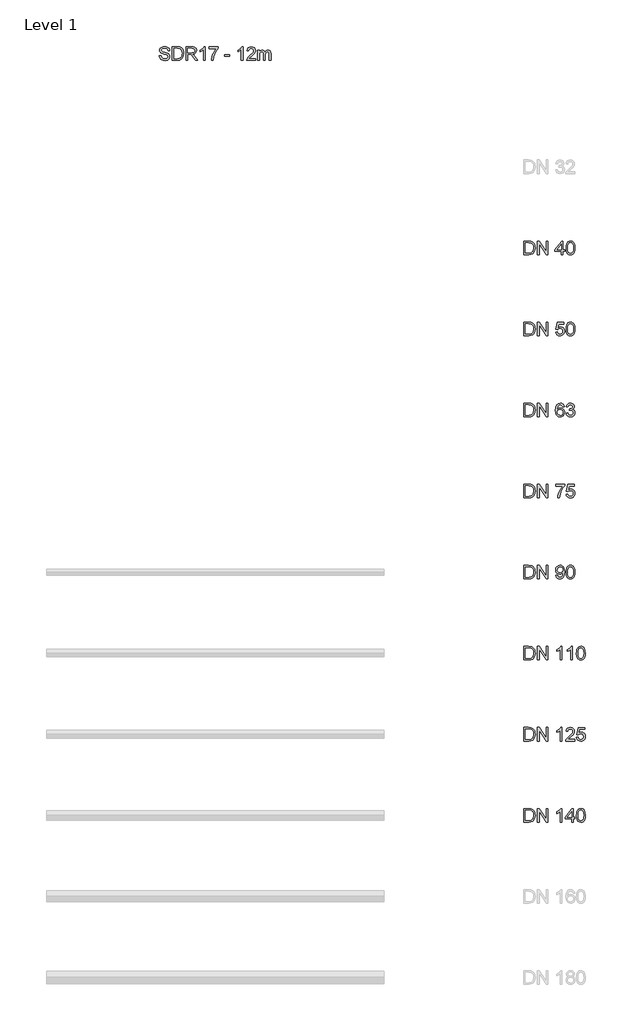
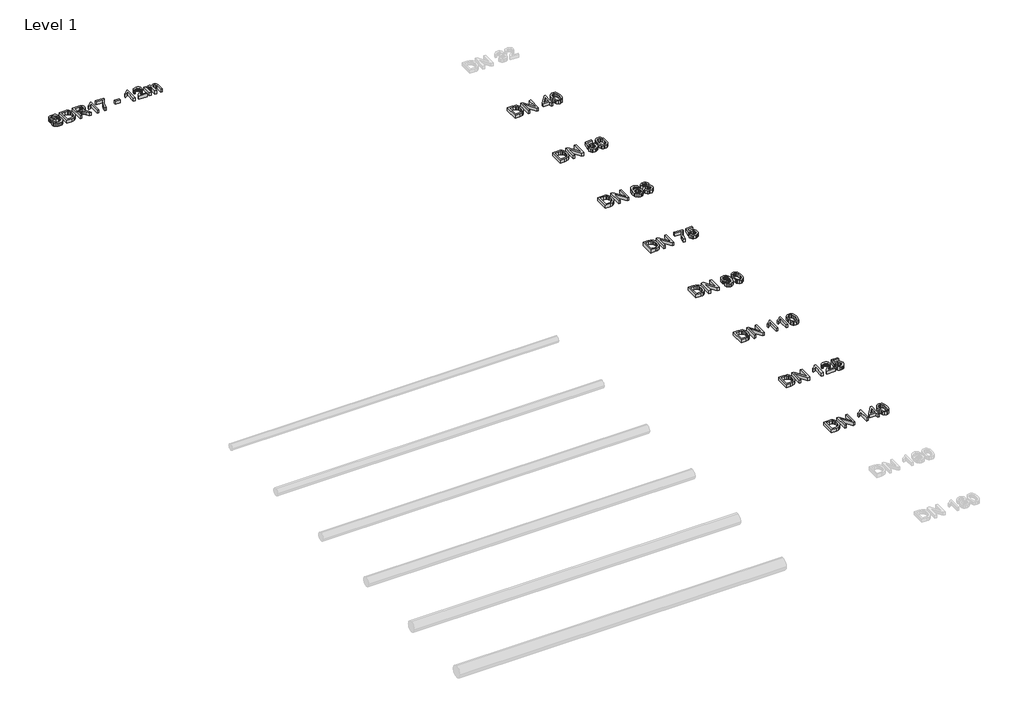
# One storey, part 21 of 26: 9 proxies.
"""IFC4 building model written with IfcOpenShell, lengths in millimetres."""

from ifc_helpers import new_model, si_unit, origin, origin_with_axes, place, context, project, spatial, polyline, outline, extrude, element, save

model = new_model("IFC4")

# Units and contexts
model_context = context("Model", 3, world=origin())
ifc_project = project(units=[si_unit("LENGTHUNIT", "METRE", prefix="MILLI")], contexts=[model_context])

# Site, building, storey
site = spatial("IfcSite", under=ifc_project)
building = spatial("IfcBuilding", under=site)
storey = spatial("IfcBuildingStorey", under=building, Name="Level 1", Elevation=0.0)

# Proxies
placement = place(None, origin())
element("IfcBuildingElementProxy", 1, Name="200mm Arial", ObjectType="200mm Arial", at=placement, inside=storey, context=model_context, shape_type="SweptSolid", body=[
    extrude(outline(polyline([(25539.3076926, -39613.949573), (25539.3076926, -39413.0369527), (25608.6166605, -39413.0369527), (25644.4728923, -39415.9309577), (25660.4880218, -39421.5105013), (25674.0015538, -39430.302881), (25687.8952305, -39445.606772), (25697.7912562, -39464.6385338), (25703.7141563, -39487.0302846), (25705.6884563, -39512.4141423), (25700.3419047, -39552.9547382), (25686.6076435, -39582.2136195), (25668.2625947, -39600.436041), (25644.2521631, -39610.5160077), (25611.9521239, -39613.949573), (25539.3076926, -39613.949573)]), holes=[polyline([(25564.4217702, -39588.8354954), (25608.8619152, -39588.8354954), (25641.1864798, -39585.2057264), (25659.8258342, -39574.9540815), (25668.5507689, -39564.0831685), (25675.1051998, -39550.0116822), (25679.207084, -39532.6783089), (25680.5743788, -39512.0217348), (25677.8949716, -39484.6513144), (25669.85675, -39464.4423301), (25657.9802929, -39450.5609162), (25643.7861793, -39442.1732067), (25608.1752021, -39438.1510302), (25564.4217702, -39438.1510302), (25564.4217702, -39588.8354954)])]), origin_with_axes(), (0.0, 0.0, 1.0), 50.0),
    extrude(outline(polyline([(25740.2203129, -39613.949573), (25740.2203129, -39413.0369527), (25767.100224, -39413.0369527), (25872.06922, -39572.2072292), (25872.06922, -39413.0369527), (25897.1832975, -39413.0369527), (25897.1832975, -39613.949573), (25870.3033864, -39613.949573), (25765.3343905, -39454.7302454), (25765.3343905, -39613.949573), (25740.2203129, -39613.949573)])), origin_with_axes(), (0.0, 0.0, 1.0), 50.0),
    extrude(outline(polyline([(26091.8173985, -39613.949573), (26091.8173985, -39566.8606776), (26000.7788674, -39566.8606776), (26000.7788674, -39541.7466), (26098.0959178, -39416.1762123), (26116.931476, -39416.1762123), (26116.931476, -39541.7466), (26142.0455535, -39541.7466), (26142.0455535, -39566.8606776), (26116.931476, -39566.8606776), (26116.931476, -39613.949573), (26091.8173985, -39613.949573)]), holes=[polyline([(26091.8173985, -39541.7466), (26091.8173985, -39464.1480245), (26031.680955, -39541.7466), (26091.8173985, -39541.7466)])]), origin_with_axes(), (0.0, 0.0, 1.0), 50.0),
    extrude(outline(polyline([(26164.0203714, -39515.1119436), (26165.8659127, -39482.9529258), (26171.4025367, -39457.3054194), (26180.5750612, -39437.7770168), (26193.3283037, -39423.9753106), (26209.7542347, -39415.7715422), (26229.9448249, -39413.0369527), (26245.4203942, -39414.6556334), (26259.2772827, -39419.5116758), (26270.8655655, -39427.4150073), (26279.5353179, -39438.1755557), (26291.3075417, -39467.9004209), (26295.8692784, -39515.1119436), (26294.0421312, -39547.0870203), (26288.5606895, -39572.6732131), (26279.4433474, -39592.2200098), (26266.708499, -39606.0768983), (26250.2457797, -39614.335849), (26229.9448249, -39617.0888326), (26203.8497287, -39612.3063667), (26184.0331519, -39597.9589689), (26175.2775604, -39582.8298218), (26169.0235665, -39563.9789353), (26164.0203714, -39515.1119436)]), holes=[polyline([(26189.1344489, -39515.0628927), (26192.0775049, -39554.5672876), (26200.9066728, -39577.4311536), (26214.0523227, -39588.3388547), (26229.9448249, -39591.9747551), (26245.8373271, -39588.326592), (26258.9829771, -39577.3821026), (26267.8121449, -39554.5059739), (26270.7552009, -39515.0628927), (26267.9102468, -39476.4475459), (26259.3753845, -39453.4058703), (26246.25426, -39441.9647402), (26229.6505193, -39438.1510302), (26213.9296954, -39441.5110191), (26201.2990802, -39451.5909857), (26192.1756067, -39476.0674012), (26189.1344489, -39515.0628927)])]), origin_with_axes(), (0.0, 0.0, 1.0), 50.0),
])
element("IfcBuildingElementProxy", 2, Name="200mm Arial", ObjectType="200mm Arial", at=placement, inside=storey, context=model_context, shape_type="SweptSolid", body=[
    extrude(outline(polyline([(25539.3076926, -40813.949573), (25539.3076926, -40613.0369527), (25608.6166605, -40613.0369527), (25644.4728923, -40615.9309577), (25660.4880218, -40621.5105013), (25674.0015538, -40630.302881), (25687.8952305, -40645.606772), (25697.7912562, -40664.6385338), (25703.7141563, -40687.0302846), (25705.6884563, -40712.4141423), (25700.3419047, -40752.9547382), (25686.6076435, -40782.2136195), (25668.2625947, -40800.436041), (25644.2521631, -40810.5160077), (25611.9521239, -40813.949573), (25539.3076926, -40813.949573)]), holes=[polyline([(25564.4217702, -40788.8354954), (25608.8619152, -40788.8354954), (25641.1864798, -40785.2057264), (25659.8258342, -40774.9540815), (25668.5507689, -40764.0831685), (25675.1051998, -40750.0116822), (25679.207084, -40732.6783089), (25680.5743788, -40712.0217348), (25677.8949716, -40684.6513144), (25669.85675, -40664.4423301), (25657.9802929, -40650.5609162), (25643.7861793, -40642.1732067), (25608.1752021, -40638.1510302), (25564.4217702, -40638.1510302), (25564.4217702, -40788.8354954)])]), origin_with_axes(), (0.0, 0.0, 1.0), 50.0),
    extrude(outline(polyline([(25740.2203129, -40813.949573), (25740.2203129, -40613.0369527), (25767.100224, -40613.0369527), (25872.06922, -40772.2072292), (25872.06922, -40613.0369527), (25897.1832975, -40613.0369527), (25897.1832975, -40813.949573), (25870.3033864, -40813.949573), (25765.3343905, -40654.7302454), (25765.3343905, -40813.949573), (25740.2203129, -40813.949573)])), origin_with_axes(), (0.0, 0.0, 1.0), 50.0),
    extrude(outline(polyline([(26010.1966465, -40760.5821582), (26035.310724, -40757.4428985), (26039.9215117, -40772.5199289), (26047.9658646, -40783.3172655), (26059.4069947, -40789.8103827), (26074.2081136, -40791.9747551), (26092.2098059, -40788.9642541), (26105.6988124, -40779.9327511), (26114.1233101, -40765.9225785), (26116.931476, -40747.9760685), (26114.3011197, -40731.0780222), (26106.4100509, -40718.1531014), (26093.1969559, -40709.9493329), (26074.6005211, -40707.2147434), (26052.5521268, -40711.5802764), (26038.4499837, -40722.9110419), (26013.3359061, -40719.7717822), (26035.310724, -40616.1762123), (26132.6277745, -40616.1762123), (26132.6277745, -40641.2902899), (26055.6178101, -40641.2902899), (26044.8756559, -40696.619742), (26062.8160345, -40685.7304349), (26081.6148045, -40682.1006659), (26105.0795444, -40686.601089), (26124.558896, -40700.1023582), (26137.6738892, -40720.6792244), (26142.0455535, -40746.4064386), (26138.1092162, -40771.5205162), (26126.3002041, -40793.0048247), (26115.8646182, -40803.5415782), (26103.6877242, -40811.0678307), (26089.769522, -40815.5835821), (26074.1100118, -40817.0888326), (26049.443524, -40813.2199403), (26029.7924941, -40801.6132634), (26016.3218817, -40783.6177025), (26010.1966465, -40760.5821582)])), origin_with_axes(), (0.0, 0.0, 1.0), 50.0),
    extrude(outline(polyline([(26164.0203714, -40715.1119436), (26165.8659127, -40682.9529258), (26171.4025367, -40657.3054194), (26180.5750612, -40637.7770168), (26193.3283037, -40623.9753106), (26209.7542347, -40615.7715422), (26229.9448249, -40613.0369527), (26245.4203942, -40614.6556334), (26259.2772827, -40619.5116758), (26270.8655655, -40627.4150073), (26279.5353179, -40638.1755557), (26291.3075417, -40667.9004209), (26295.8692784, -40715.1119436), (26294.0421312, -40747.0870203), (26288.5606895, -40772.6732131), (26279.4433474, -40792.2200098), (26266.708499, -40806.0768983), (26250.2457797, -40814.335849), (26229.9448249, -40817.0888326), (26203.8497287, -40812.3063667), (26184.0331519, -40797.9589689), (26175.2775604, -40782.8298218), (26169.0235665, -40763.9789353), (26164.0203714, -40715.1119436)]), holes=[polyline([(26189.1344489, -40715.0628927), (26192.0775049, -40754.5672876), (26200.9066728, -40777.4311536), (26214.0523227, -40788.3388547), (26229.9448249, -40791.9747551), (26245.8373271, -40788.326592), (26258.9829771, -40777.3821026), (26267.8121449, -40754.5059739), (26270.7552009, -40715.0628927), (26267.9102468, -40676.4475459), (26259.3753845, -40653.4058703), (26246.25426, -40641.9647402), (26229.6505193, -40638.1510302), (26213.9296954, -40641.5110191), (26201.2990802, -40651.5909857), (26192.1756067, -40676.0674012), (26189.1344489, -40715.0628927)])]), origin_with_axes(), (0.0, 0.0, 1.0), 50.0),
])
element("IfcBuildingElementProxy", 3, Name="200mm Arial", ObjectType="200mm Arial", at=placement, inside=storey, context=model_context, shape_type="SweptSolid", body=[
    extrude(outline(polyline([(25539.3076926, -42013.949573), (25539.3076926, -41813.0369527), (25608.6166605, -41813.0369527), (25644.4728923, -41815.9309577), (25660.4880218, -41821.5105013), (25674.0015538, -41830.302881), (25687.8952305, -41845.606772), (25697.7912562, -41864.6385338), (25703.7141563, -41887.0302846), (25705.6884563, -41912.4141423), (25700.3419047, -41952.9547382), (25686.6076435, -41982.2136195), (25668.2625947, -42000.436041), (25644.2521631, -42010.5160077), (25611.9521239, -42013.949573), (25539.3076926, -42013.949573)]), holes=[polyline([(25564.4217702, -41988.8354954), (25608.8619152, -41988.8354954), (25641.1864798, -41985.2057264), (25659.8258342, -41974.9540815), (25668.5507689, -41964.0831685), (25675.1051998, -41950.0116822), (25679.207084, -41932.6783089), (25680.5743788, -41912.0217348), (25677.8949716, -41884.6513144), (25669.85675, -41864.4423301), (25657.9802929, -41850.5609162), (25643.7861793, -41842.1732067), (25608.1752021, -41838.1510302), (25564.4217702, -41838.1510302), (25564.4217702, -41988.8354954)])]), origin_with_axes(), (0.0, 0.0, 1.0), 50.0),
    extrude(outline(polyline([(25740.2203129, -42013.949573), (25740.2203129, -41813.0369527), (25767.100224, -41813.0369527), (25872.06922, -41972.2072292), (25872.06922, -41813.0369527), (25897.1832975, -41813.0369527), (25897.1832975, -42013.949573), (25870.3033864, -42013.949573), (25765.3343905, -41854.7302454), (25765.3343905, -42013.949573), (25740.2203129, -42013.949573)])), origin_with_axes(), (0.0, 0.0, 1.0), 50.0),
    extrude(outline(polyline([(26138.9062938, -41866.4043674), (26113.7922163, -41869.5436271), (26104.2763354, -41848.5988789), (26092.8842562, -41840.7629924), (26079.1132069, -41838.1510302), (26056.451676, -41844.2333458), (26047.0155028, -41853.8411973), (26039.308375, -41867.066555), (26034.1028448, -41885.7733545), (26032.1714643, -41911.8255311), (26042.2452996, -41900.0717013), (26054.3179604, -41891.7882251), (26067.7149964, -41886.8770005), (26081.7619573, -41885.2399256), (26104.9630484, -41889.7158232), (26124.4362687, -41903.143516), (26137.6432323, -41923.6590686), (26142.0455535, -41949.3985455), (26139.9731516, -41967.3818437), (26133.7559459, -41984.0530295), (26123.9089712, -41998.1919608), (26110.9472622, -42008.5784958), (26095.4594302, -42014.9612484), (26078.0340864, -42017.0888326), (26049.5416258, -42011.4479754), (26026.8494381, -41994.5254036), (26018.1904156, -41981.4165418), (26012.0053996, -41964.6533856), (26007.0573868, -41920.1641897), (26012.5510912, -41870.144501), (26019.4182218, -41851.0667539), (26029.0322046, -41835.9437382), (26039.4524621, -41825.9220195), (26051.53432, -41818.763649), (26080.6828367, -41813.0369527), (26102.7189682, -41816.5808825), (26120.3650413, -41827.2126722), (26132.7258763, -41844.0984558), (26138.9062938, -41866.4043674)]), holes=[polyline([(26032.1714643, -41949.0061381), (26037.9839998, -41970.7602267), (26053.4350436, -41986.554627), (26076.0720491, -41991.9747551), (26092.6451329, -41989.1665892), (26105.6742869, -41980.7420915), (26114.1171787, -41967.4983397), (26116.931476, -41950.2324114), (26114.1539669, -41933.6593275), (26105.8214397, -41921.022581), (26092.5715565, -41913.0211476), (26075.0419795, -41910.3540031), (26058.4934211, -41913.0211476), (26044.6549267, -41921.022581), (26035.2923299, -41933.3527592), (26032.1714643, -41949.0061381)])]), origin_with_axes(), (0.0, 0.0, 1.0), 50.0),
    extrude(outline(polyline([(26164.0203714, -41960.5821582), (26189.1344489, -41957.4428985), (26194.7569121, -41973.2250361), (26202.9913374, -41983.8813512), (26214.2423951, -41989.9514041), (26228.9147553, -41991.9747551), (26246.1316327, -41989.1911147), (26259.4244355, -41980.8401934), (26267.9225095, -41968.3812565), (26270.7552009, -41953.2735692), (26267.947035, -41938.9323028), (26259.5225373, -41927.3011004), (26246.7692948, -41919.5939726), (26230.9748945, -41917.02493), (26213.3656097, -41919.7717822), (26216.1615128, -41894.6577047), (26220.1836893, -41894.9520102), (26235.2300629, -41893.1493885), (26248.6822812, -41887.7415231), (26258.1736367, -41878.5935242), (26261.3374218, -41865.5705016), (26259.0442907, -41854.7241141), (26252.1648974, -41845.925603), (26241.6679978, -41840.0946734), (26228.5223479, -41838.1510302), (26215.3521724, -41840.1130675), (26204.5854927, -41845.9991794), (26196.7250807, -41855.809366), (26192.2737086, -41869.5436271), (26167.1596311, -41866.4043674), (26174.5540592, -41843.8532011), (26187.7119719, -41827.0164685), (26205.7136642, -41816.5318316), (26227.6394311, -41813.0369527), (26243.4277, -41814.7598667), (26257.928382, -41819.9286087), (26270.154327, -41828.0833263), (26279.1183849, -41838.7641669), (26284.6182208, -41851.0698196), (26286.4514994, -41864.0989736), (26284.7101913, -41876.2390794), (26279.4862669, -41887.2510138), (26270.8533028, -41896.6320047), (26258.8848752, -41903.87928), (26274.6056991, -41910.2313758), (26286.2552956, -41921.0471064), (26293.4657827, -41935.7378608), (26295.8692784, -41953.7150276), (26291.062287, -41978.191443), (26276.6413128, -41998.645682), (26254.8749614, -42012.478045), (26228.0318385, -42017.0888326), (26203.7516269, -42013.1524953), (26183.984101, -42001.3434833), (26170.2375771, -41983.2804773), (26164.0203714, -41960.5821582)])), origin_with_axes(), (0.0, 0.0, 1.0), 50.0),
])
element("IfcBuildingElementProxy", 4, Name="200mm Arial", ObjectType="200mm Arial", at=placement, inside=storey, context=model_context, shape_type="SweptSolid", body=[
    extrude(outline(polyline([(25539.3076926, -43213.949573), (25539.3076926, -43013.0369527), (25608.6166605, -43013.0369527), (25644.4728923, -43015.9309577), (25660.4880218, -43021.5105013), (25674.0015538, -43030.302881), (25687.8952305, -43045.606772), (25697.7912562, -43064.6385338), (25703.7141563, -43087.0302846), (25705.6884563, -43112.4141423), (25700.3419047, -43152.9547382), (25686.6076435, -43182.2136195), (25668.2625947, -43200.436041), (25644.2521631, -43210.5160077), (25611.9521239, -43213.949573), (25539.3076926, -43213.949573)]), holes=[polyline([(25564.4217702, -43188.8354954), (25608.8619152, -43188.8354954), (25641.1864798, -43185.2057264), (25659.8258342, -43174.9540815), (25668.5507689, -43164.0831685), (25675.1051998, -43150.0116822), (25679.207084, -43132.6783089), (25680.5743788, -43112.0217348), (25677.8949716, -43084.6513144), (25669.85675, -43064.4423301), (25657.9802929, -43050.5609162), (25643.7861793, -43042.1732067), (25608.1752021, -43038.1510302), (25564.4217702, -43038.1510302), (25564.4217702, -43188.8354954)])]), origin_with_axes(), (0.0, 0.0, 1.0), 50.0),
    extrude(outline(polyline([(25740.2203129, -43213.949573), (25740.2203129, -43013.0369527), (25767.100224, -43013.0369527), (25872.06922, -43172.2072292), (25872.06922, -43013.0369527), (25897.1832975, -43013.0369527), (25897.1832975, -43213.949573), (25870.3033864, -43213.949573), (25765.3343905, -43054.7302454), (25765.3343905, -43213.949573), (25740.2203129, -43213.949573)])), origin_with_axes(), (0.0, 0.0, 1.0), 50.0),
    extrude(outline(polyline([(26010.1966465, -43041.2902899), (26010.1966465, -43016.1762123), (26142.0455535, -43016.1762123), (26142.0455535, -43036.4832985), (26123.2529149, -43060.2668695), (26104.6442174, -43090.5129008), (26088.230549, -43124.4622776), (26076.0229981, -43159.3558849), (26066.7033209, -43213.949573), (26041.5892434, -43213.949573), (26044.3054388, -43188.0629432), (26051.5711082, -43157.2957457), (26063.1900479, -43124.6830068), (26078.9660541, -43093.2597531), (26097.3846793, -43064.8531317), (26116.931476, -43041.2902899), (26010.1966465, -43041.2902899)])), origin_with_axes(), (0.0, 0.0, 1.0), 50.0),
    extrude(outline(polyline([(26164.0203714, -43160.5821582), (26189.1344489, -43157.4428985), (26193.7452366, -43172.5199289), (26201.7895895, -43183.3172655), (26213.2307196, -43189.8103827), (26228.0318385, -43191.9747551), (26246.0335308, -43188.9642541), (26259.5225373, -43179.9327511), (26267.947035, -43165.9225785), (26270.7552009, -43147.9760685), (26268.1248446, -43131.0780222), (26260.2337758, -43118.1531014), (26247.0206809, -43109.9493329), (26228.424246, -43107.2147434), (26206.3758518, -43111.5802764), (26192.2737086, -43122.9110419), (26167.1596311, -43119.7717822), (26189.1344489, -43016.1762123), (26286.4514994, -43016.1762123), (26286.4514994, -43041.2902899), (26209.441535, -43041.2902899), (26198.6993808, -43096.619742), (26216.6397594, -43085.7304349), (26235.4385294, -43082.1006659), (26258.9032693, -43086.601089), (26278.3826209, -43100.1023582), (26291.4976141, -43120.6792244), (26295.8692784, -43146.4064386), (26291.9329411, -43171.5205162), (26280.123929, -43193.0048247), (26269.6883431, -43203.5415782), (26257.5114491, -43211.0678307), (26243.5932469, -43215.5835821), (26227.9337367, -43217.0888326), (26203.2672489, -43213.2199403), (26183.616219, -43201.6132634), (26170.1456066, -43183.6177025), (26164.0203714, -43160.5821582)])), origin_with_axes(), (0.0, 0.0, 1.0), 50.0),
])
element("IfcBuildingElementProxy", 5, Name="200mm Arial", ObjectType="200mm Arial", at=placement, inside=storey, context=model_context, shape_type="SweptSolid", body=[
    extrude(outline(polyline([(25539.3076926, -44413.949573), (25539.3076926, -44213.0369527), (25608.6166605, -44213.0369527), (25644.4728923, -44215.9309577), (25660.4880218, -44221.5105013), (25674.0015538, -44230.302881), (25687.8952305, -44245.606772), (25697.7912562, -44264.6385338), (25703.7141563, -44287.0302846), (25705.6884563, -44312.4141423), (25700.3419047, -44352.9547382), (25686.6076435, -44382.2136195), (25668.2625947, -44400.436041), (25644.2521631, -44410.5160077), (25611.9521239, -44413.949573), (25539.3076926, -44413.949573)]), holes=[polyline([(25564.4217702, -44388.8354954), (25608.8619152, -44388.8354954), (25641.1864798, -44385.2057264), (25659.8258342, -44374.9540815), (25668.5507689, -44364.0831685), (25675.1051998, -44350.0116822), (25679.207084, -44332.6783089), (25680.5743788, -44312.0217348), (25677.8949716, -44284.6513144), (25669.85675, -44264.4423301), (25657.9802929, -44250.5609162), (25643.7861793, -44242.1732067), (25608.1752021, -44238.1510302), (25564.4217702, -44238.1510302), (25564.4217702, -44388.8354954)])]), origin_with_axes(), (0.0, 0.0, 1.0), 50.0),
    extrude(outline(polyline([(25740.2203129, -44413.949573), (25740.2203129, -44213.0369527), (25767.100224, -44213.0369527), (25872.06922, -44372.2072292), (25872.06922, -44213.0369527), (25897.1832975, -44213.0369527), (25897.1832975, -44413.949573), (25870.3033864, -44413.949573), (25765.3343905, -44254.7302454), (25765.3343905, -44413.949573), (25740.2203129, -44413.949573)])), origin_with_axes(), (0.0, 0.0, 1.0), 50.0),
    extrude(outline(polyline([(26013.3359061, -44363.7214179), (26038.4499837, -44360.5821582), (26042.7419403, -44374.8375855), (26049.7316982, -44384.5435388), (26059.2475791, -44390.116951), (26071.1179049, -44391.9747551), (26091.4495165, -44387.1922892), (26105.2328285, -44374.4145212), (26113.4488598, -44352.5868562), (26117.0786288, -44323.4506021), (26116.931476, -44318.5455089), (26108.2310668, -44329.1650358), (26096.8451191, -44337.5772708), (26083.5952359, -44343.0587125), (26069.3030203, -44344.8858597), (26046.4023661, -44340.4222249), (26027.3399474, -44327.0313202), (26014.4824717, -44306.3440894), (26010.1966465, -44279.9914758), (26014.6909382, -44252.7682081), (26028.1738133, -44231.4310524), (26048.4257171, -44217.6354776), (26073.227095, -44213.0369527), (26091.9584199, -44215.6611776), (26109.0097504, -44223.5338523), (26123.271309, -44236.2625693), (26133.6333186, -44253.4549212), (26139.9424948, -44277.2200981), (26142.0455535, -44309.6672901), (26139.9486262, -44344.070388), (26133.657844, -44370.6621249), (26123.2283895, -44390.6442486), (26108.7154448, -44405.2185069), (26090.7444093, -44414.1212512), (26069.9406825, -44417.0888326), (26048.4686367, -44413.5878223), (26031.3375984, -44403.0847914), (26019.3569081, -44386.2419274), (26013.3359061, -44363.7214179)]), holes=[polyline([(26116.931476, -44279.4028646), (26114.221412, -44262.3821909), (26106.0912199, -44249.2855919), (26093.4728674, -44240.9346706), (26077.2983224, -44238.1510302), (26060.5229034, -44241.1492685), (26047.0829478, -44250.1439832), (26038.25378, -44263.9089012), (26035.310724, -44281.2177491), (26038.0943644, -44296.7362379), (26046.4452857, -44309.0541534), (26059.5541475, -44317.092375), (26076.6116093, -44319.7717822), (26092.6573957, -44317.092375), (26105.5761851, -44309.0541534), (26114.0926533, -44296.2825168), (26116.931476, -44279.4028646)])]), origin_with_axes(), (0.0, 0.0, 1.0), 50.0),
    extrude(outline(polyline([(26164.0203714, -44315.1119436), (26165.8659127, -44282.9529258), (26171.4025367, -44257.3054194), (26180.5750612, -44237.7770168), (26193.3283037, -44223.9753106), (26209.7542347, -44215.7715422), (26229.9448249, -44213.0369527), (26245.4203942, -44214.6556334), (26259.2772827, -44219.5116758), (26270.8655655, -44227.4150073), (26279.5353179, -44238.1755557), (26291.3075417, -44267.9004209), (26295.8692784, -44315.1119436), (26294.0421312, -44347.0870203), (26288.5606895, -44372.6732131), (26279.4433474, -44392.2200098), (26266.708499, -44406.0768983), (26250.2457797, -44414.335849), (26229.9448249, -44417.0888326), (26203.8497287, -44412.3063667), (26184.0331519, -44397.9589689), (26175.2775604, -44382.8298218), (26169.0235665, -44363.9789353), (26164.0203714, -44315.1119436)]), holes=[polyline([(26189.1344489, -44315.0628927), (26192.0775049, -44354.5672876), (26200.9066728, -44377.4311536), (26214.0523227, -44388.3388547), (26229.9448249, -44391.9747551), (26245.8373271, -44388.326592), (26258.9829771, -44377.3821026), (26267.8121449, -44354.5059739), (26270.7552009, -44315.0628927), (26267.9102468, -44276.4475459), (26259.3753845, -44253.4058703), (26246.25426, -44241.9647402), (26229.6505193, -44238.1510302), (26213.9296954, -44241.5110191), (26201.2990802, -44251.5909857), (26192.1756067, -44276.0674012), (26189.1344489, -44315.0628927)])]), origin_with_axes(), (0.0, 0.0, 1.0), 50.0),
])
element("IfcBuildingElementProxy", 6, Name="200mm Arial", ObjectType="200mm Arial", at=placement, inside=storey, context=model_context, shape_type="SweptSolid", body=[
    extrude(outline(polyline([(25539.3076926, -45613.949573), (25539.3076926, -45413.0369527), (25608.6166605, -45413.0369527), (25644.4728923, -45415.9309577), (25660.4880218, -45421.5105013), (25674.0015538, -45430.302881), (25687.8952305, -45445.606772), (25697.7912562, -45464.6385338), (25703.7141563, -45487.0302846), (25705.6884563, -45512.4141423), (25700.3419047, -45552.9547382), (25686.6076435, -45582.2136195), (25668.2625947, -45600.436041), (25644.2521631, -45610.5160077), (25611.9521239, -45613.949573), (25539.3076926, -45613.949573)]), holes=[polyline([(25564.4217702, -45588.8354954), (25608.8619152, -45588.8354954), (25641.1864798, -45585.2057264), (25659.8258342, -45574.9540815), (25668.5507689, -45564.0831685), (25675.1051998, -45550.0116822), (25679.207084, -45532.6783089), (25680.5743788, -45512.0217348), (25677.8949716, -45484.6513144), (25669.85675, -45464.4423301), (25657.9802929, -45450.5609162), (25643.7861793, -45442.1732067), (25608.1752021, -45438.1510302), (25564.4217702, -45438.1510302), (25564.4217702, -45588.8354954)])]), origin_with_axes(), (0.0, 0.0, 1.0), 50.0),
    extrude(outline(polyline([(25740.2203129, -45613.949573), (25740.2203129, -45413.0369527), (25767.100224, -45413.0369527), (25872.06922, -45572.2072292), (25872.06922, -45413.0369527), (25897.1832975, -45413.0369527), (25897.1832975, -45613.949573), (25870.3033864, -45613.949573), (25765.3343905, -45454.7302454), (25765.3343905, -45613.949573), (25740.2203129, -45613.949573)])), origin_with_axes(), (0.0, 0.0, 1.0), 50.0),
    extrude(outline(polyline([(26104.3744372, -45613.949573), (26079.2603597, -45613.949573), (26079.2603597, -45457.3789958), (26055.4706573, -45474.3260931), (26029.0322046, -45487.0057592), (26029.0322046, -45463.2651077), (26065.8449296, -45439.769711), (26079.315542, -45426.1948653), (26088.1876294, -45413.0369527), (26104.3744372, -45413.0369527), (26104.3744372, -45613.949573)])), origin_with_axes(), (0.0, 0.0, 1.0), 50.0),
    extrude(outline(polyline([(26258.1981621, -45613.949573), (26233.0840846, -45613.949573), (26233.0840846, -45457.3789958), (26209.2943822, -45474.3260931), (26182.8559295, -45487.0057592), (26182.8559295, -45463.2651077), (26219.6686545, -45439.769711), (26233.1392669, -45426.1948653), (26242.0113543, -45413.0369527), (26258.1981621, -45413.0369527), (26258.1981621, -45613.949573)])), origin_with_axes(), (0.0, 0.0, 1.0), 50.0),
    extrude(outline(polyline([(26317.8440963, -45515.1119436), (26319.6896376, -45482.9529258), (26325.2262617, -45457.3054194), (26334.3987861, -45437.7770168), (26347.1520286, -45423.9753106), (26363.5779597, -45415.7715422), (26383.7685498, -45413.0369527), (26399.2441191, -45414.6556334), (26413.1010076, -45419.5116758), (26424.6892904, -45427.4150073), (26433.3590428, -45438.1755557), (26445.1312666, -45467.9004209), (26449.6930034, -45515.1119436), (26447.8658561, -45547.0870203), (26442.3844144, -45572.6732131), (26433.2670723, -45592.2200098), (26420.5322239, -45606.0768983), (26404.0695046, -45614.335849), (26383.7685498, -45617.0888326), (26357.6734536, -45612.3063667), (26337.8568768, -45597.9589689), (26329.1012853, -45582.8298218), (26322.8472914, -45563.9789353), (26317.8440963, -45515.1119436)]), holes=[polyline([(26342.9581738, -45515.0628927), (26345.9012298, -45554.5672876), (26354.7303977, -45577.4311536), (26367.8760476, -45588.3388547), (26383.7685498, -45591.9747551), (26399.661052, -45588.326592), (26412.806702, -45577.3821026), (26421.6358699, -45554.5059739), (26424.5789258, -45515.0628927), (26421.7339717, -45476.4475459), (26413.1991094, -45453.4058703), (26400.0779849, -45441.9647402), (26383.4742442, -45438.1510302), (26367.7534203, -45441.5110191), (26355.1228051, -45451.5909857), (26345.9993317, -45476.0674012), (26342.9581738, -45515.0628927)])]), origin_with_axes(), (0.0, 0.0, 1.0), 50.0),
])
element("IfcBuildingElementProxy", 7, Name="200mm Arial", ObjectType="200mm Arial", at=placement, inside=storey, context=model_context, shape_type="SweptSolid", body=[
    extrude(outline(polyline([(25539.3076926, -46813.949573), (25539.3076926, -46613.0369527), (25608.6166605, -46613.0369527), (25644.4728923, -46615.9309577), (25660.4880218, -46621.5105013), (25674.0015538, -46630.302881), (25687.8952305, -46645.606772), (25697.7912562, -46664.6385338), (25703.7141563, -46687.0302846), (25705.6884563, -46712.4141423), (25700.3419047, -46752.9547382), (25686.6076435, -46782.2136195), (25668.2625947, -46800.436041), (25644.2521631, -46810.5160077), (25611.9521239, -46813.949573), (25539.3076926, -46813.949573)]), holes=[polyline([(25564.4217702, -46788.8354954), (25608.8619152, -46788.8354954), (25641.1864798, -46785.2057264), (25659.8258342, -46774.9540815), (25668.5507689, -46764.0831685), (25675.1051998, -46750.0116822), (25679.207084, -46732.6783089), (25680.5743788, -46712.0217348), (25677.8949716, -46684.6513144), (25669.85675, -46664.4423301), (25657.9802929, -46650.5609162), (25643.7861793, -46642.1732067), (25608.1752021, -46638.1510302), (25564.4217702, -46638.1510302), (25564.4217702, -46788.8354954)])]), origin_with_axes(), (0.0, 0.0, 1.0), 50.0),
    extrude(outline(polyline([(25740.2203129, -46813.949573), (25740.2203129, -46613.0369527), (25767.100224, -46613.0369527), (25872.06922, -46772.2072292), (25872.06922, -46613.0369527), (25897.1832975, -46613.0369527), (25897.1832975, -46813.949573), (25870.3033864, -46813.949573), (25765.3343905, -46654.7302454), (25765.3343905, -46813.949573), (25740.2203129, -46813.949573)])), origin_with_axes(), (0.0, 0.0, 1.0), 50.0),
    extrude(outline(polyline([(26104.3744372, -46813.949573), (26079.2603597, -46813.949573), (26079.2603597, -46657.3789958), (26055.4706573, -46674.3260931), (26029.0322046, -46687.0057592), (26029.0322046, -46663.2651077), (26065.8449296, -46639.769711), (26079.315542, -46626.1948653), (26088.1876294, -46613.0369527), (26104.3744372, -46613.0369527), (26104.3744372, -46813.949573)])), origin_with_axes(), (0.0, 0.0, 1.0), 50.0),
    extrude(outline(polyline([(26292.7300188, -46788.8354954), (26292.7300188, -46813.949573), (26160.8811117, -46813.949573), (26163.578913, -46796.6345937), (26178.833753, -46769.9754118), (26210.2754009, -46740.8636832), (26253.6364254, -46699.0232377), (26261.7666175, -46684.6022634), (26264.4766815, -46670.5736967), (26261.9199017, -46657.9982638), (26254.2495621, -46647.5442838), (26242.4589441, -46640.4993436), (26227.5413292, -46638.1510302), (26211.8756876, -46640.4441613), (26199.7049249, -46647.3235546), (26191.8506443, -46658.2496499), (26189.1344489, -46672.6828868), (26164.0203714, -46669.5436271), (26170.1088184, -46645.2511527), (26183.2728625, -46627.5069778), (26202.8257905, -46616.6544589), (26228.0808895, -46613.0369527), (26253.5199294, -46617.0591291), (26273.0360693, -46629.1256586), (26285.4520866, -46647.1518763), (26289.5907591, -46669.0531178), (26285.1271242, -46692.8673456), (26270.289217, -46717.4909138), (26234.3103579, -46751.9001431), (26205.4193586, -46776.0577275), (26194.0885931, -46788.8354954), (26292.7300188, -46788.8354954)])), origin_with_axes(), (0.0, 0.0, 1.0), 50.0),
    extrude(outline(polyline([(26317.8440963, -46760.5821582), (26342.9581738, -46757.4428985), (26347.5689615, -46772.5199289), (26355.6133145, -46783.3172655), (26367.0544445, -46789.8103827), (26381.8555634, -46791.9747551), (26399.8572557, -46788.9642541), (26413.3462622, -46779.9327511), (26421.7707599, -46765.9225785), (26424.5789258, -46747.9760685), (26421.9485696, -46731.0780222), (26414.0575008, -46718.1531014), (26400.8444058, -46709.9493329), (26382.2479709, -46707.2147434), (26360.1995767, -46711.5802764), (26346.0974335, -46722.9110419), (26320.983356, -46719.7717822), (26342.9581738, -46616.1762123), (26440.2752243, -46616.1762123), (26440.2752243, -46641.2902899), (26363.26526, -46641.2902899), (26352.5231057, -46696.619742), (26370.4634843, -46685.7304349), (26389.2622543, -46682.1006659), (26412.7269942, -46686.601089), (26432.2063459, -46700.1023582), (26445.321339, -46720.6792244), (26449.6930034, -46746.4064386), (26445.756666, -46771.5205162), (26433.947654, -46793.0048247), (26423.512068, -46803.5415782), (26411.335174, -46811.0678307), (26397.4169718, -46815.5835821), (26381.7574616, -46817.0888326), (26357.0909738, -46813.2199403), (26337.4399439, -46801.6132634), (26323.9693315, -46783.6177025), (26317.8440963, -46760.5821582)])), origin_with_axes(), (0.0, 0.0, 1.0), 50.0),
])
element("IfcBuildingElementProxy", 8, Name="200mm Arial", ObjectType="200mm Arial", at=placement, inside=storey, context=model_context, shape_type="SweptSolid", body=[
    extrude(outline(polyline([(25539.3076926, -48013.949573), (25539.3076926, -47813.0369527), (25608.6166605, -47813.0369527), (25644.4728923, -47815.9309577), (25660.4880218, -47821.5105013), (25674.0015538, -47830.302881), (25687.8952305, -47845.606772), (25697.7912562, -47864.6385338), (25703.7141563, -47887.0302846), (25705.6884563, -47912.4141423), (25700.3419047, -47952.9547382), (25686.6076435, -47982.2136195), (25668.2625947, -48000.436041), (25644.2521631, -48010.5160077), (25611.9521239, -48013.949573), (25539.3076926, -48013.949573)]), holes=[polyline([(25564.4217702, -47988.8354954), (25608.8619152, -47988.8354954), (25641.1864798, -47985.2057264), (25659.8258342, -47974.9540815), (25668.5507689, -47964.0831685), (25675.1051998, -47950.0116822), (25679.207084, -47932.6783089), (25680.5743788, -47912.0217348), (25677.8949716, -47884.6513144), (25669.85675, -47864.4423301), (25657.9802929, -47850.5609162), (25643.7861793, -47842.1732067), (25608.1752021, -47838.1510302), (25564.4217702, -47838.1510302), (25564.4217702, -47988.8354954)])]), origin_with_axes(), (0.0, 0.0, 1.0), 50.0),
    extrude(outline(polyline([(25740.2203129, -48013.949573), (25740.2203129, -47813.0369527), (25767.100224, -47813.0369527), (25872.06922, -47972.2072292), (25872.06922, -47813.0369527), (25897.1832975, -47813.0369527), (25897.1832975, -48013.949573), (25870.3033864, -48013.949573), (25765.3343905, -47854.7302454), (25765.3343905, -48013.949573), (25740.2203129, -48013.949573)])), origin_with_axes(), (0.0, 0.0, 1.0), 50.0),
    extrude(outline(polyline([(26104.3744372, -48013.949573), (26079.2603597, -48013.949573), (26079.2603597, -47857.3789958), (26055.4706573, -47874.3260931), (26029.0322046, -47887.0057592), (26029.0322046, -47863.2651077), (26065.8449296, -47839.769711), (26079.315542, -47826.1948653), (26088.1876294, -47813.0369527), (26104.3744372, -47813.0369527), (26104.3744372, -48013.949573)])), origin_with_axes(), (0.0, 0.0, 1.0), 50.0),
    extrude(outline(polyline([(26245.6411234, -48013.949573), (26245.6411234, -47966.8606776), (26154.6025923, -47966.8606776), (26154.6025923, -47941.7466), (26251.9196428, -47816.1762123), (26270.7552009, -47816.1762123), (26270.7552009, -47941.7466), (26295.8692784, -47941.7466), (26295.8692784, -47966.8606776), (26270.7552009, -47966.8606776), (26270.7552009, -48013.949573), (26245.6411234, -48013.949573)]), holes=[polyline([(26245.6411234, -47941.7466), (26245.6411234, -47864.1480245), (26185.5046799, -47941.7466), (26245.6411234, -47941.7466)])]), origin_with_axes(), (0.0, 0.0, 1.0), 50.0),
    extrude(outline(polyline([(26317.8440963, -47915.1119436), (26319.6896376, -47882.9529258), (26325.2262617, -47857.3054194), (26334.3987861, -47837.7770168), (26347.1520286, -47823.9753106), (26363.5779597, -47815.7715422), (26383.7685498, -47813.0369527), (26399.2441191, -47814.6556334), (26413.1010076, -47819.5116758), (26424.6892904, -47827.4150073), (26433.3590428, -47838.1755557), (26445.1312666, -47867.9004209), (26449.6930034, -47915.1119436), (26447.8658561, -47947.0870203), (26442.3844144, -47972.6732131), (26433.2670723, -47992.2200098), (26420.5322239, -48006.0768983), (26404.0695046, -48014.335849), (26383.7685498, -48017.0888326), (26357.6734536, -48012.3063667), (26337.8568768, -47997.9589689), (26329.1012853, -47982.8298218), (26322.8472914, -47963.9789353), (26317.8440963, -47915.1119436)]), holes=[polyline([(26342.9581738, -47915.0628927), (26345.9012298, -47954.5672876), (26354.7303977, -47977.4311536), (26367.8760476, -47988.3388547), (26383.7685498, -47991.9747551), (26399.661052, -47988.326592), (26412.806702, -47977.3821026), (26421.6358699, -47954.5059739), (26424.5789258, -47915.0628927), (26421.7339717, -47876.4475459), (26413.1991094, -47853.4058703), (26400.0779849, -47841.9647402), (26383.4742442, -47838.1510302), (26367.7534203, -47841.5110191), (26355.1228051, -47851.5909857), (26345.9993317, -47876.0674012), (26342.9581738, -47915.0628927)])]), origin_with_axes(), (0.0, 0.0, 1.0), 50.0),
])
element("IfcBuildingElementProxy", 9, Name="200mm Arial", ObjectType="200mm Arial", at=placement, inside=storey, context=model_context, shape_type="SweptSolid", body=[
    extrude(outline(polyline([(20136.9986862, -36668.9871574), (20162.1127637, -36668.9871574), (20170.2061676, -36694.1257604), (20178.3363597, -36703.016242), (20189.9736935, -36710.0182626), (20204.198464, -36714.5616053), (20220.0909662, -36716.0760528), (20246.3332152, -36711.4897906), (20263.2803124, -36698.8837009), (20268.8475933, -36682.0347055), (20264.678264, -36666.3629325), (20258.3261682, -36660.1641209), (20247.6085394, -36654.9585907), (20211.0410691, -36645.3691333), (20171.6776956, -36632.9837728), (20159.1758391, -36624.5347497), (20150.3160144, -36614.2953675), (20145.0369078, -36602.4863554), (20143.2772056, -36589.3284427), (20145.4538407, -36574.6192943), (20151.9837461, -36560.9034272), (20162.6952436, -36549.2783562), (20177.4166547, -36540.8415958), (20195.0872532, -36535.7096419), (20214.6463127, -36533.9989907), (20235.8363156, -36535.7893497), (20254.3775681, -36541.1604268), (20269.6078827, -36550.0018575), (20280.8650718, -36562.203277), (20287.9897198, -36577.0043959), (20290.8224111, -36593.6449248), (20265.7083336, -36593.6449248), (20261.0975459, -36578.6598649), (20251.4835631, -36567.8441342), (20236.461715, -36561.2958347), (20215.6273313, -36559.1130682), (20194.3024383, -36561.2713092), (20179.6729976, -36567.7460324), (20171.2117118, -36577.274176), (20168.3912831, -36588.5926788), (20170.3901086, -36598.2434498), (20176.3865852, -36606.0057599), (20190.5623047, -36612.9464668), (20217.3931649, -36620.0343266), (20261.8333099, -36632.6404163), (20276.1500509, -36641.7516271), (20286.138047, -36652.9965534), (20292.0057649, -36666.2525679), (20293.9616708, -36681.3970434), (20291.7114593, -36696.878744), (20284.9608247, -36711.4407397), (20273.9856785, -36723.973253), (20259.0619322, -36733.3665066), (20241.1154222, -36739.2342244), (20221.0719848, -36741.1901304), (20196.4668107, -36739.0809402), (20176.2149069, -36732.7533699), (20160.0832814, -36722.1828939), (20147.8389423, -36707.3449868), (20139.9785304, -36689.2697181), (20136.9986862, -36668.9871574)])), origin_with_axes(), (0.0, 0.0, 1.0), 50.0),
    extrude(outline(polyline([(20331.6327871, -36738.0508707), (20331.6327871, -36537.1382504), (20400.941755, -36537.1382504), (20436.7979868, -36540.0322554), (20452.8131163, -36545.611799), (20466.3266483, -36554.4041787), (20480.220325, -36569.7080697), (20490.1163506, -36588.7398315), (20496.0392508, -36611.1315823), (20498.0135508, -36636.51544), (20492.6669991, -36677.0560359), (20478.932738, -36706.3149172), (20460.5876892, -36724.5373387), (20436.5772576, -36734.6173054), (20404.2772184, -36738.0508707), (20331.6327871, -36738.0508707)]), holes=[polyline([(20356.7468647, -36712.9367931), (20401.1870097, -36712.9367931), (20433.5115743, -36709.3070241), (20452.1509287, -36699.0553792), (20460.8758634, -36688.1844662), (20467.4302943, -36674.1129799), (20471.5321785, -36656.7796066), (20472.8994733, -36636.1230325), (20470.2200661, -36608.7526121), (20462.1818445, -36588.5436278), (20450.3053874, -36574.6622139), (20436.1112737, -36566.2745044), (20400.5002966, -36562.2523279), (20356.7468647, -36562.2523279), (20356.7468647, -36712.9367931)])]), origin_with_axes(), (0.0, 0.0, 1.0), 50.0),
    extrude(outline(polyline([(20532.5454074, -36738.0508707), (20532.5454074, -36537.1382504), (20619.1203036, -36537.1382504), (20642.3888398, -36538.4932824), (20659.317543, -36542.5583784), (20671.6906407, -36550.0631711), (20681.2923608, -36561.7372931), (20687.4543842, -36576.2134496), (20689.508392, -36592.1243459), (20686.1054836, -36611.9163972), (20675.8967582, -36628.3239342), (20658.5756476, -36640.3536755), (20633.8355834, -36647.0123396), (20648.1094048, -36657.7544938), (20668.4655419, -36683.6043354), (20701.9673289, -36738.0508707), (20672.782024, -36738.0508707), (20646.6378769, -36696.4066288), (20627.7532678, -36668.8400046), (20614.4849905, -36655.816982), (20602.5410884, -36651.0345161), (20587.9729614, -36650.1515993), (20557.659485, -36650.1515993), (20557.659485, -36738.0508707), (20532.5454074, -36738.0508707)]), holes=[polyline([(20557.659485, -36625.0375217), (20613.8718538, -36625.0375217), (20642.542124, -36621.4813291), (20651.9721658, -36616.8582787), (20658.8270336, -36610.1015127), (20664.3943145, -36593.0563136), (20661.7394328, -36580.8058432), (20653.7747876, -36570.934343), (20640.0711832, -36564.4228317), (20620.1994241, -36562.2523279), (20557.659485, -36562.2523279), (20557.659485, -36625.0375217)])]), origin_with_axes(), (0.0, 0.0, 1.0), 50.0),
    extrude(outline(polyline([(20818.2180394, -36738.0508707), (20793.1039619, -36738.0508707), (20793.1039619, -36581.4802935), (20769.3142595, -36598.4273908), (20742.8758068, -36611.1070569), (20742.8758068, -36587.3664054), (20779.6885318, -36563.8710087), (20793.1591442, -36550.2961631), (20802.0312316, -36537.1382504), (20818.2180394, -36537.1382504), (20818.2180394, -36738.0508707)])), origin_with_axes(), (0.0, 0.0, 1.0), 50.0),
    extrude(outline(polyline([(20877.8639736, -36565.3915876), (20877.8639736, -36540.2775101), (21009.7128806, -36540.2775101), (21009.7128806, -36560.5845962), (20990.920242, -36584.3681672), (20972.3115445, -36614.6141985), (20955.8978761, -36648.5635753), (20943.6903252, -36683.4571826), (20934.370648, -36738.0508707), (20909.2565705, -36738.0508707), (20911.9727659, -36712.1642409), (20919.2384353, -36681.3970434), (20930.857375, -36648.7843045), (20946.6333812, -36617.3610508), (20965.0520064, -36588.9544294), (20984.5988031, -36565.3915876), (20877.8639736, -36565.3915876)])), origin_with_axes(), (0.0, 0.0, 1.0), 50.0),
    extrude(outline(polyline([(21103.8906714, -36678.4049365), (21103.8906714, -36653.290859), (21182.3721637, -36653.290859), (21182.3721637, -36678.4049365), (21103.8906714, -36678.4049365)])), origin_with_axes(), (0.0, 0.0, 1.0), 50.0),
    extrude(outline(polyline([(21377.0062646, -36738.0508707), (21351.8921871, -36738.0508707), (21351.8921871, -36581.4802935), (21328.1024847, -36598.4273908), (21301.664032, -36611.1070569), (21301.664032, -36587.3664054), (21338.476757, -36563.8710087), (21351.9473694, -36550.2961631), (21360.8194568, -36537.1382504), (21377.0062646, -36537.1382504), (21377.0062646, -36738.0508707)])), origin_with_axes(), (0.0, 0.0, 1.0), 50.0),
    extrude(outline(polyline([(21565.3618461, -36712.9367931), (21565.3618461, -36738.0508707), (21433.5129391, -36738.0508707), (21436.2107404, -36720.7358914), (21451.4655804, -36694.0767095), (21482.9072283, -36664.9649809), (21526.2682528, -36623.1245354), (21534.3984449, -36608.7035612), (21537.1085089, -36594.6749944), (21534.551729, -36582.0995615), (21526.8813894, -36571.6455815), (21515.0907715, -36564.6006413), (21500.1731566, -36562.2523279), (21484.507515, -36564.545459), (21472.3367523, -36571.4248523), (21464.4824717, -36582.3509476), (21461.7662763, -36596.7841845), (21436.6521988, -36593.6449248), (21442.7406458, -36569.3524504), (21455.9046898, -36551.6082755), (21475.4576179, -36540.7557566), (21500.7127169, -36537.1382504), (21526.1517568, -36541.1604268), (21545.6678967, -36553.2269563), (21558.083914, -36571.253174), (21562.2225865, -36593.1544155), (21557.7589516, -36616.9686433), (21542.9210444, -36641.5922115), (21506.9421853, -36676.0014408), (21478.051186, -36700.1590252), (21466.7204205, -36712.9367931), (21565.3618461, -36712.9367931)])), origin_with_axes(), (0.0, 0.0, 1.0), 50.0),
    extrude(outline(polyline([(21596.7544431, -36738.0508707), (21596.7544431, -36590.5056651), (21621.8685206, -36590.5056651), (21621.8685206, -36614.7858768), (21629.4223642, -36603.632921), (21639.1344489, -36594.8957236), (21650.6736808, -36589.248735), (21663.7089662, -36587.3664054), (21677.6762193, -36589.2855232), (21688.8720947, -36595.0428764), (21697.2352787, -36604.2583204), (21702.7044577, -36616.5517104), (21711.858588, -36603.7831395), (21722.3003053, -36594.6627317), (21734.0296096, -36589.190487), (21747.0465008, -36587.3664054), (21765.9249785, -36590.4014319), (21779.8861003, -36599.5065113), (21788.5129331, -36614.9268982), (21791.388544, -36636.9078475), (21791.388544, -36738.0508707), (21766.2744664, -36738.0508707), (21766.2744664, -36647.6990526), (21763.9445471, -36626.7297789), (21755.5077867, -36616.4045576), (21741.1603889, -36612.480483), (21727.5548865, -36614.9943433), (21716.4632443, -36622.5359242), (21709.0872103, -36635.6202605), (21706.6285323, -36654.762387), (21706.6285323, -36738.0508707), (21681.5144548, -36738.0508707), (21681.5144548, -36644.9031495), (21680.0613209, -36630.7029045), (21675.7019192, -36620.5738869), (21668.0315796, -36614.5038339), (21656.6456319, -36612.480483), (21638.0553284, -36617.8760856), (21630.6976885, -36624.5224869), (21625.6944934, -36633.6704859), (21621.8685206, -36663.6406058), (21621.8685206, -36738.0508707), (21596.7544431, -36738.0508707)])), origin_with_axes(), (0.0, 0.0, 1.0), 50.0),
])

save(model, "model.ifc")
